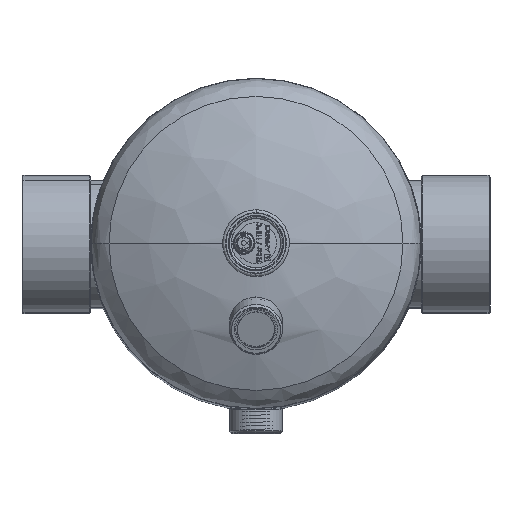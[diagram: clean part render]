
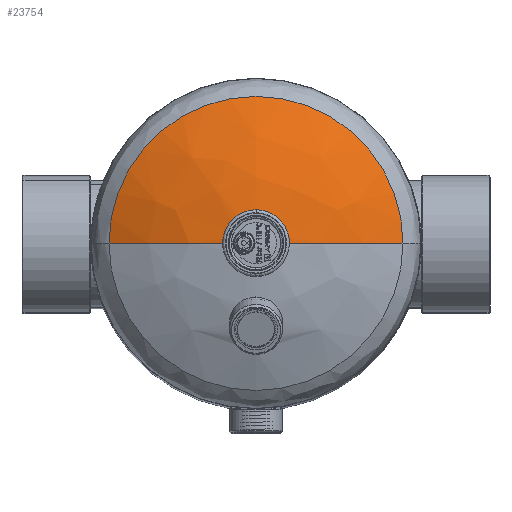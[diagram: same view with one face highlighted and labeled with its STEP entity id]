
A CAD part, top view. The second image highlights one B-rep face of the part: STEP entity #23754.
In plain terms, the highlighted free-form (B-spline) face has degree [3, 3] with [4, 4] control points.
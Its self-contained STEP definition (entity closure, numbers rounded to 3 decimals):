
#8880 = CARTESIAN_POINT ( 'NONE',  ( -1.858, -167.99, 0. ) ) ;
#9483 = ORIENTED_EDGE ( 'NONE', *, *, #62803, .T. ) ;
#19837 = CARTESIAN_POINT ( 'NONE',  ( 12.25, -0.583, -24.5 ) ) ;
#21051 = ORIENTED_EDGE ( 'NONE', *, *, #39095, .F. ) ;
#21441 = CIRCLE ( 'NONE', #63237, 12.25 ) ;
#23754 = ADVANCED_FACE ( 'NONE', ( #130601 ), #140521, .T. ) ;
#24495 = DIRECTION ( 'NONE',  ( -1., 0., 0. ) ) ;
#28892 = CARTESIAN_POINT ( 'NONE',  ( 55.294, -8.487, 0. ) ) ;
#29673 = CARTESIAN_POINT ( 'NONE',  ( -12.25, -0.583, 0. ) ) ;
#31349 = DIRECTION ( 'NONE',  ( 0., -1., 0. ) ) ;
#33213 = DIRECTION ( 'NONE',  ( 0., 1., 0. ) ) ;
#34611 = EDGE_CURVE ( 'NONE', #87094, #65510, #21441, .T. ) ;
#39095 = EDGE_CURVE ( 'NONE', #40687, #108888, #82914, .T. ) ;
#39147 = CARTESIAN_POINT ( 'NONE',  ( 1.858, -167.99, 0. ) ) ;
#39531 = CIRCLE ( 'NONE', #86638, 12.25 ) ;
#40687 = VERTEX_POINT ( 'NONE', #63407 ) ;
#40975 = VERTEX_POINT ( 'NONE', #88577 ) ;
#43573 = CARTESIAN_POINT ( 'NONE',  ( -12.25, -0.583, -24.5 ) ) ;
#43626 = CARTESIAN_POINT ( 'NONE',  ( 0., -0.583, 0. ) ) ;
#44397 = CARTESIAN_POINT ( 'NONE',  ( -74.855, -18.527, -149.71 ) ) ;
#46674 = DIRECTION ( 'NONE',  ( -1., 0., 0. ) ) ;
#56707 = CARTESIAN_POINT ( 'NONE',  ( 74.855, -18.527, -149.71 ) ) ;
#57497 = CARTESIAN_POINT ( 'NONE',  ( -34.159, -2.43, -68.318 ) ) ;
#59227 = EDGE_CURVE ( 'NONE', #40687, #87094, #39531, .T. ) ;
#62803 = EDGE_CURVE ( 'NONE', #65510, #40975, #81587, .T. ) ;
#63237 = AXIS2_PLACEMENT_3D ( 'NONE', #43626, #31349, #81321 ) ;
#63407 = CARTESIAN_POINT ( 'NONE',  ( -12.25, -0.583, 0. ) ) ;
#65510 = VERTEX_POINT ( 'NONE', #137590 ) ;
#69813 = CARTESIAN_POINT ( 'NONE',  ( -55.294, -8.487, 0. ) ) ;
#71260 = DIRECTION ( 'NONE',  ( 0., -1., 0. ) ) ;
#75741 = EDGE_LOOP ( 'NONE', ( #114150, #9483, #99109, #21051, #79499 ) ) ;
#79499 = ORIENTED_EDGE ( 'NONE', *, *, #59227, .T. ) ;
#81321 = DIRECTION ( 'NONE',  ( -1., 0., 0. ) ) ;
#81587 = CIRCLE ( 'NONE', #149847, 168. ) ;
#82055 = CARTESIAN_POINT ( 'NONE',  ( 74.855, -18.527, 0. ) ) ;
#82914 = CIRCLE ( 'NONE', #130137, 168. ) ;
#83969 = CARTESIAN_POINT ( 'NONE',  ( 0., -18.527, 0. ) ) ;
#86638 = AXIS2_PLACEMENT_3D ( 'NONE', #95837, #71260, #46674 ) ;
#87094 = VERTEX_POINT ( 'NONE', #132898 ) ;
#88577 = CARTESIAN_POINT ( 'NONE',  ( 74.855, -18.527, 0. ) ) ;
#93526 = CARTESIAN_POINT ( 'NONE',  ( -34.159, -2.43, 0. ) ) ;
#95837 = CARTESIAN_POINT ( 'NONE',  ( 0., -0.583, 0. ) ) ;
#98726 = EDGE_CURVE ( 'NONE', #40975, #108888, #100798, .T. ) ;
#99109 = ORIENTED_EDGE ( 'NONE', *, *, #98726, .T. ) ;
#100798 = CIRCLE ( 'NONE', #127102, 74.855 ) ;
#107565 = CARTESIAN_POINT ( 'NONE',  ( -74.855, -18.527, 0. ) ) ;
#108888 = VERTEX_POINT ( 'NONE', #109078 ) ;
#109078 = CARTESIAN_POINT ( 'NONE',  ( -74.855, -18.527, 0. ) ) ;
#114150 = ORIENTED_EDGE ( 'NONE', *, *, #34611, .T. ) ;
#119899 = CARTESIAN_POINT ( 'NONE',  ( 12.25, -0.583, 0. ) ) ;
#127102 = AXIS2_PLACEMENT_3D ( 'NONE', #83969, #33213, #146448 ) ;
#130137 = AXIS2_PLACEMENT_3D ( 'NONE', #39147, #137684, #24495 ) ;
#130601 = FACE_OUTER_BOUND ( 'NONE', #75741, .T. ) ;
#131445 = CARTESIAN_POINT ( 'NONE',  ( 55.294, -8.487, -110.589 ) ) ;
#132898 = CARTESIAN_POINT ( 'NONE',  ( 0., -0.583, -12.25 ) ) ;
#133631 = DIRECTION ( 'NONE',  ( 1., 0., 0. ) ) ;
#137590 = CARTESIAN_POINT ( 'NONE',  ( 12.25, -0.583, 0. ) ) ;
#137684 = DIRECTION ( 'NONE',  ( 0., 0., 1. ) ) ;
#140521 =( BOUNDED_SURFACE ( )  B_SPLINE_SURFACE ( 3, 3, ( 
 ( #119899, #19837, #43573, #29673 ),
 ( #142133, #155249, #57497, #93526 ),
 ( #28892, #131445, #154440, #69813 ),
 ( #82055, #56707, #44397, #107565 ) ),
 .UNSPECIFIED., .F., .F., .T. ) 
 B_SPLINE_SURFACE_WITH_KNOTS ( ( 4, 4 ),
 ( 4, 4 ),
 ( 0., 1. ),
 ( 0., 1. ),
 .UNSPECIFIED. ) 
 GEOMETRIC_REPRESENTATION_ITEM ( )  RATIONAL_B_SPLINE_SURFACE ( (
 ( 1., 0.333, 0.333, 1.),
 ( 0.987, 0.329, 0.329, 0.987),
 ( 0.987, 0.329, 0.329, 0.987),
 ( 1., 0.333, 0.333, 1.) ) ) 
 REPRESENTATION_ITEM ( '' )  SURFACE ( )  );
#142133 = CARTESIAN_POINT ( 'NONE',  ( 34.159, -2.43, 0. ) ) ;
#146448 = DIRECTION ( 'NONE',  ( -1., 0., 0. ) ) ;
#149847 = AXIS2_PLACEMENT_3D ( 'NONE', #8880, #158237, #133631 ) ;
#154440 = CARTESIAN_POINT ( 'NONE',  ( -55.294, -8.487, -110.589 ) ) ;
#155249 = CARTESIAN_POINT ( 'NONE',  ( 34.159, -2.43, -68.318 ) ) ;
#158237 = DIRECTION ( 'NONE',  ( 0., 0., -1. ) ) ;
